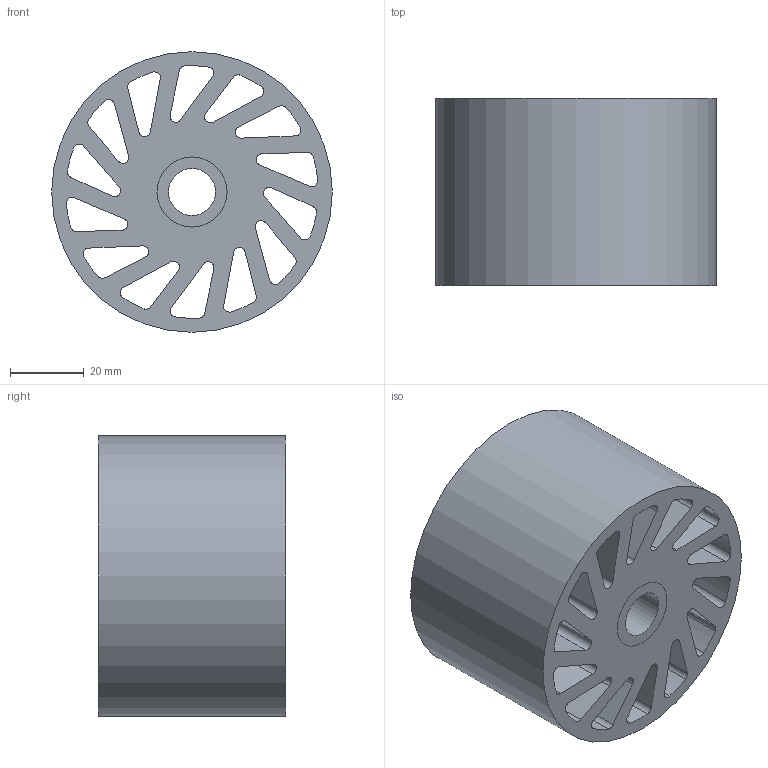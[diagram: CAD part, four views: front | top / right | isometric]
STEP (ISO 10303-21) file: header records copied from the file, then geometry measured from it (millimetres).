
FILE_DESCRIPTION(/* description */ (''),/* implementation_level */ '2;1');
FILE_NAME(/* name */ 'C:\Users\Owner\Desktop\Meridian Stuff\Oilite\NCWOB-710-XXX.stp',/* time_stamp */ '2023-05-22T16:50:34-05:00',/* author */ ('ASG'),/* organization */ ('Meridian Laboratory '),/* preprocessor_version */ 'ST-DEVELOPER v19',/* originating_system */ 'Autodesk Inventor 2023',/* authorisation */ '');
FILE_SCHEMA (('AUTOMOTIVE_DESIGN { 1 0 10303 214 3 1 1 }'));
Length unit declared in the file: inch
Products named in the file (1): NCWOB-640-XXX
Bounding box: 76.2 x 50.8 x 76.2 mm (x, y, z)
Volume: 154521.8 mm3; surface area: 57109.2 mm2
Topology: 2 solids, 2 shells, 92 faces, 264 edges, 176 vertices
Faces by surface type: cylinder 60, plane 32
Full cylindrical faces by diameter (mm): 12.738 x1, 19.05 x2, 76.2 x1
Entity records: 3285 total; most frequent: DIRECTION 570, CARTESIAN_POINT 533, ORIENTED_EDGE 528, EDGE_CURVE 264, AXIS2_PLACEMENT_3D 213, VERTEX_POINT 176, LINE 144, VECTOR 144
